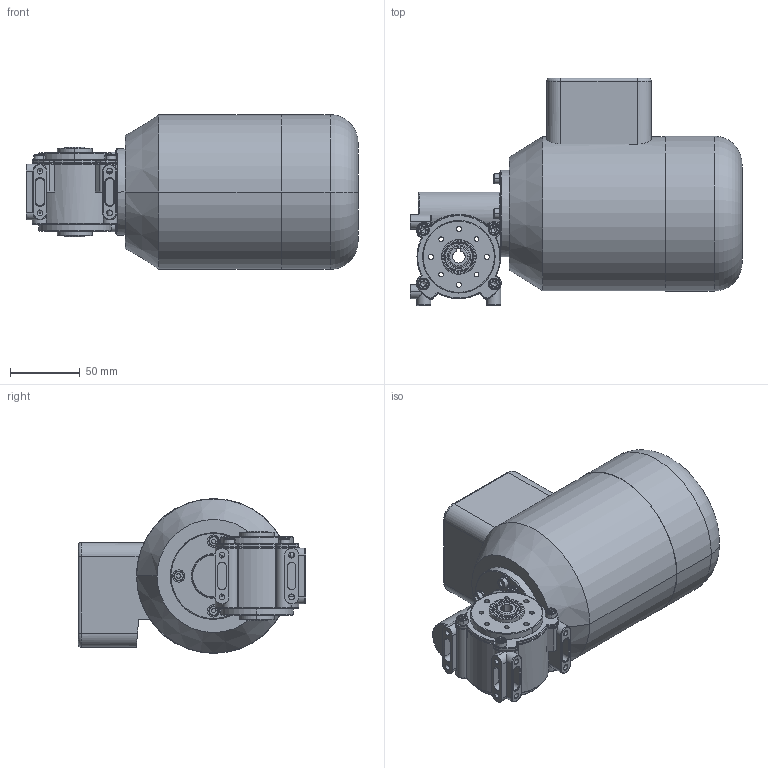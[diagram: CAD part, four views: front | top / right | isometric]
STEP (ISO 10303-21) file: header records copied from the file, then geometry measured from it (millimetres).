
FILE_DESCRIPTION (( 'STEP AP214' ), '1' );
FILE_NAME ('SN18H_90W_1400Upm_D.STEP', '2021-03-17T08:08:35', ( '' ), ( '' ), 'SwSTEP 2.0', 'SolidWorks 2019', '' );
FILE_SCHEMA (( 'AUTOMOTIVE_DESIGN' ));
Length unit declared in the file: millimetre
Products named in the file (1): SN18H_90W_1400Upm_D
Bounding box: 238 x 163 x 111 mm (x, y, z)
Surface area: 119249.2 mm2 (no closed solid volume)
Topology: 0 solids, 16 shells, 529 faces, 1464 edges, 950 vertices
Faces by surface type: cylinder 278, torus 126, plane 91, cone 28, bspline 4, sphere 2
Entity records: 25353 total; most frequent: CARTESIAN_POINT 5823, DIRECTION 3106, ORIENTED_EDGE 2669, EDGE_CURVE 1454, AXIS2_PLACEMENT_3D 1318, VERTEX_POINT 949, CIRCLE 792, EDGE_LOOP 607
